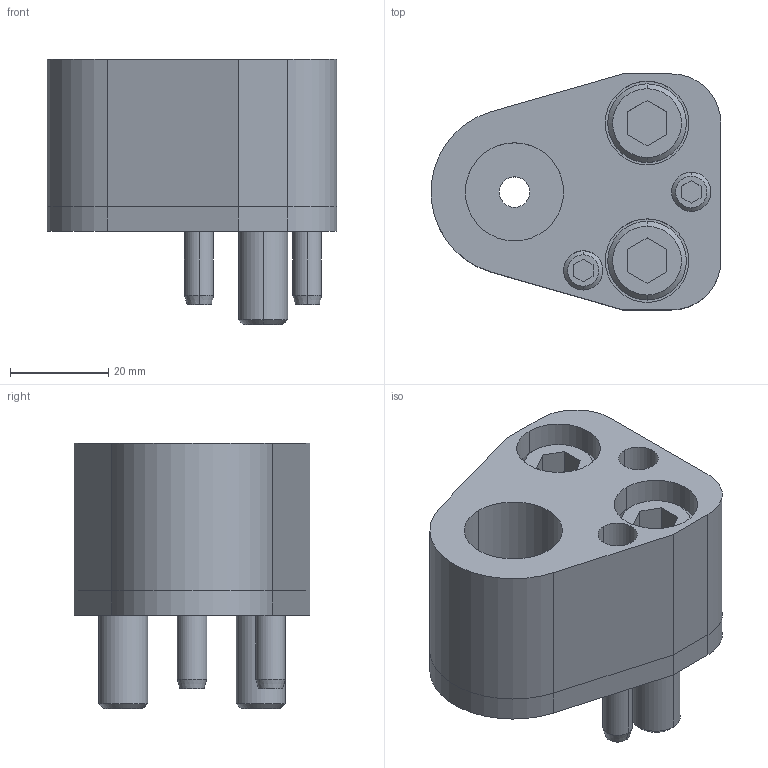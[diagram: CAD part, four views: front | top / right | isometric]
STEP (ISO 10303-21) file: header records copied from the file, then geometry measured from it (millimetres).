
FILE_DESCRIPTION(/* description */ (''),/* implementation_level */ '2;1');
FILE_NAME(/* name */ '3d_ap-ap20_02879_r00.stp',/* time_stamp */ '2011-01-10T14:17:46+09:00',/* author */ ('MISUMI'),/* organization */ (''),/* preprocessor_version */ 'ST-DEVELOPER v11',/* originating_system */ 'UGS - NX 5.0',/* authorisation */ '');
FILE_SCHEMA (('CONFIG_CONTROL_DESIGN'));
Length unit declared in the file: millimetre
Products named in the file (1): 3d_ap-ap20_02879_r00
Bounding box: 58.94 x 48 x 54 mm (x, y, z)
Volume: 67424 mm3; surface area: 26851.9 mm2
Topology: 8 solids, 8 shells, 155 faces, 346 edges, 222 vertices
Faces by surface type: plane 67, cylinder 62, cone 26
Entity records: 4474 total; most frequent: DIRECTION 804, CARTESIAN_POINT 772, ORIENTED_EDGE 692, EDGE_CURVE 346, AXIS2_PLACEMENT_3D 306, VERTEX_POINT 222, LINE 192, VECTOR 192
